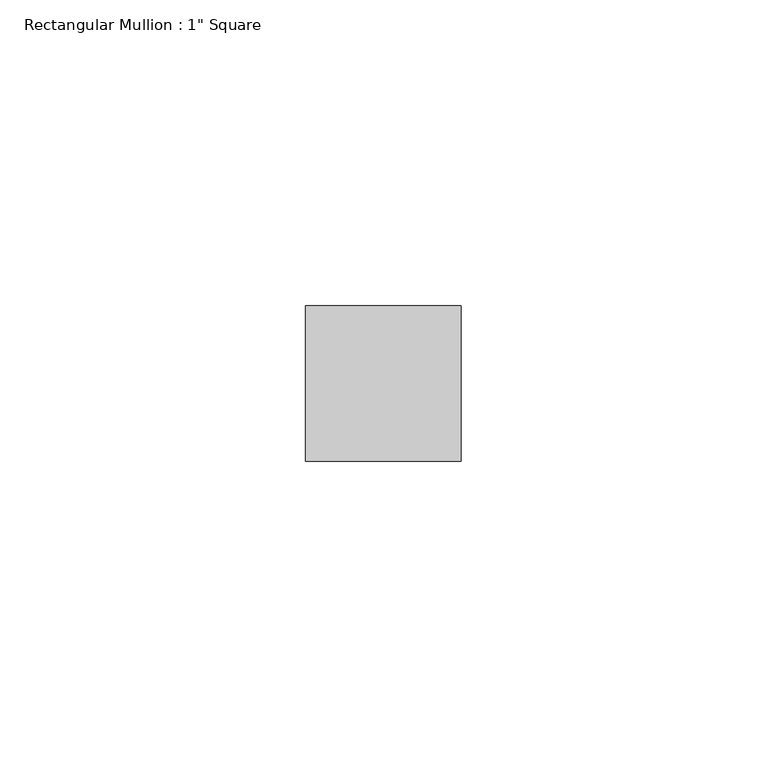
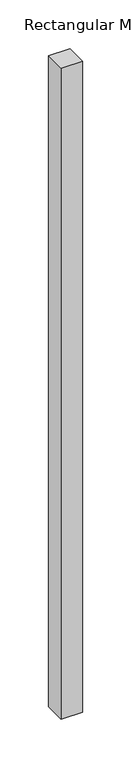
"""IFC4 building model written with IfcOpenShell, lengths in millimetres: member geometry."""

import ifcopenshell
import ifcopenshell.guid

model = None  # the IFC model being written
_history = None  # IfcOwnerHistory: only IFC2X3 demands one
_inside = {}  # id of a spatial element -> (the spatial element, [elements in it])
_under = {}  # id of a project, library or spatial element -> (it, [spatial elements below it])
_declared = {}  # id of a project -> (the project, [libraries it declares])
_typed = {}  # id of a type object -> (the type object, [elements of that type])
_made_of = {}  # id of a material, layer set ... -> (it, [elements and type objects made of it])


def new_model(schema):
    """Start an empty IFC model of exactly this schema.

    Asked for "IFC4X3", IfcOpenShell would pick the latest addendum, in which some entities
    have other attributes; the version numbers below select the first issue.
    IFC2X3 requires an IfcOwnerHistory on every rooted entity: one is made here for all.
    """
    global model, _history
    if schema == "IFC4X3":
        model = ifcopenshell.file(schema_version=(4, 3, 0, 0))
    else:
        model = ifcopenshell.file(schema=schema)
    _inside.clear()
    _under.clear()
    _declared.clear()
    _typed.clear()
    _made_of.clear()
    _history = None
    if model.schema == "IFC2X3":
        org = make("IfcOrganization", Name="unknown")
        user = make(
            "IfcPersonAndOrganization",
            ThePerson=make("IfcPerson", FamilyName="unknown"),
            TheOrganization=org,
        )
        app = make(
            "IfcApplication",
            ApplicationDeveloper=org,
            Version="unknown",
            ApplicationFullName="unknown",
            ApplicationIdentifier="unknown",
        )
        _history = make(
            "IfcOwnerHistory",
            OwningUser=user,
            OwningApplication=app,
            ChangeAction="ADDED",
            CreationDate=0,
        )
    return model


def make(cls, **values):
    """One entity of the class cls with the attributes given. An attribute that is None is left unset."""
    return model.create_entity(
        cls, **{name: value for name, value in values.items() if value is not None}
    )


def rooted(cls, **values):
    """An entity with a GlobalId (a new one), such as an element, a storey or a relation."""
    return make(cls, GlobalId=ifcopenshell.guid.new(), OwnerHistory=_history, **values)


def si_unit(unit_type, name, prefix=None):
    """IfcSIUnit, for example si_unit("LENGTHUNIT", "METRE", prefix="MILLI")."""
    return make("IfcSIUnit", UnitType=unit_type, Prefix=prefix, Name=name)


def assignment(units):
    """IfcUnitAssignment: the units of a project."""
    return None if units is None else make("IfcUnitAssignment", Units=units)


def point(xyz):
    """IfcCartesianPoint."""
    return None if xyz is None else make("IfcCartesianPoint", Coordinates=xyz)


def direction(xyz):
    """IfcDirection."""
    return None if xyz is None else make("IfcDirection", DirectionRatios=xyz)


def frame(location, z_axis=None, x_axis=None):
    """IfcAxis2Placement3D, a coordinate frame: its origin and axes. An axis left out is left unset."""
    return make(
        "IfcAxis2Placement3D",
        Location=point(location),
        Axis=direction(z_axis),
        RefDirection=direction(x_axis),
    )


def origin():
    """The frame at (0, 0, 0) with its axes left unset."""
    return frame((0.0, 0.0, 0.0))


def place(relative_to, where):
    """IfcLocalPlacement: puts the frame where relative to a parent placement (None: the world)."""
    return make(
        "IfcLocalPlacement", PlacementRelTo=relative_to, RelativePlacement=where
    )


def context(
    kind, dimensions, precision=None, world=None, true_north=None, identifier=None
):
    """IfcGeometricRepresentationContext, for example the 3D "Model" context."""
    return make(
        "IfcGeometricRepresentationContext",
        ContextIdentifier=identifier,
        ContextType=kind,
        CoordinateSpaceDimension=dimensions,
        Precision=precision,
        WorldCoordinateSystem=world,
        TrueNorth=true_north,
    )


def project(units=None, contexts=None):
    """IfcProject with its units and contexts."""
    return rooted(
        "IfcProject",
        Name="project",
        RepresentationContexts=contexts,
        UnitsInContext=assignment(units),
    )


def spatial(cls, under=None, at=None, **own):
    """A site, building, storey or space (cls), placed at a placement, below another one or the project."""
    s = rooted(cls, ObjectPlacement=at, **own)
    if under is not None:
        _under.setdefault(under.id(), (under, []))[1].append(s)
    return s


def polyline(points):
    """IfcPolyline through the points."""
    return make("IfcPolyline", Points=[point(p) for p in points])


def outline(outer, holes=None, kind="AREA"):
    """IfcArbitraryClosedProfileDef: a profile drawn as a closed curve; with holes, ...WithVoids."""
    if holes is None:
        return make("IfcArbitraryClosedProfileDef", ProfileType=kind, OuterCurve=outer)
    return make(
        "IfcArbitraryProfileDefWithVoids",
        ProfileType=kind,
        OuterCurve=outer,
        InnerCurves=holes,
    )


def extrude(swept, where, along, depth):
    """IfcExtrudedAreaSolid: the profile swept, set in the frame where, extruded along a direction by depth."""
    return make(
        "IfcExtrudedAreaSolid",
        SweptArea=swept,
        Position=where,
        ExtrudedDirection=direction(along),
        Depth=depth,
    )


def shape(context_of_items, identifier, shape_type, items):
    """IfcShapeRepresentation: the items that make up one representation, for example the "Body"."""
    return make(
        "IfcShapeRepresentation",
        ContextOfItems=context_of_items,
        RepresentationIdentifier=identifier,
        RepresentationType=shape_type,
        Items=items,
    )


def source(mapping_origin, context_of_items, identifier, shape_type, items):
    """IfcRepresentationMap: a shape defined once, which mapped items show again and again."""
    return make(
        "IfcRepresentationMap",
        MappingOrigin=mapping_origin,
        MappedRepresentation=shape(context_of_items, identifier, shape_type, items),
    )


def transform(
    local_origin,
    x_axis=None,
    y_axis=None,
    z_axis=None,
    scale=None,
    scale2=None,
    scale3=None,
    uniform=True,
):
    """IfcCartesianTransformationOperator3D, or its non-uniform kind. x_axis, y_axis, z_axis: its Axis1, 2, 3."""
    if uniform:
        return make(
            "IfcCartesianTransformationOperator3D",
            Axis1=direction(x_axis),
            Axis2=direction(y_axis),
            LocalOrigin=point(local_origin),
            Scale=scale,
            Axis3=direction(z_axis),
        )
    return make(
        "IfcCartesianTransformationOperator3DnonUniform",
        Axis1=direction(x_axis),
        Axis2=direction(y_axis),
        LocalOrigin=point(local_origin),
        Scale=scale,
        Axis3=direction(z_axis),
        Scale2=scale2,
        Scale3=scale3,
    )


def mapped(mapping_source, mapping_target):
    """IfcMappedItem: shows the shape of a source again, moved by a transform."""
    return make(
        "IfcMappedItem", MappingSource=mapping_source, MappingTarget=mapping_target
    )


def made_of(thing, what):
    """Note that an element or type object is made of a material, layer set ...; save() writes the relation."""
    if what is not None:
        _made_of.setdefault(what.id(), (what, []))[1].append(thing)
    return thing


def element(
    cls,
    number,
    at=None,
    inside=None,
    cuts=None,
    type_object=None,
    material=None,
    context=None,
    identifier="Body",
    shape_type=None,
    held_by="IfcProductDefinitionShape",
    body=None,
    shapes=None,
    **own,
):
    """One element of the class cls, such as IfcWall. Its Tag is "e" and its number.

    at: its placement. inside: the storey or other place that contains it. cuts: it is an
    opening in that element (IfcRelVoidsElement). A single representation is given by context,
    identifier, shape_type and body (its items); several are given by shapes. held_by: the class
    of the entity that holds the representations. save() writes the other relations.
    """
    e = rooted(cls, Tag="e%d" % number, ObjectPlacement=at, **own)
    if body is not None:
        shapes = [shape(context, identifier, shape_type, body)]
    if shapes is not None:
        e.Representation = make(held_by, Representations=shapes)
    if inside is not None:
        _inside.setdefault(inside.id(), (inside, []))[1].append(e)
    if cuts is not None:
        rooted(
            "IfcRelVoidsElement", RelatingBuildingElement=cuts, RelatedOpeningElement=e
        )
    if type_object is not None:
        _typed.setdefault(type_object.id(), (type_object, []))[1].append(e)
    return made_of(e, material)


def aggregate(whole, parts):
    """IfcRelAggregates: a whole, such as a stair, and the parts it consists of."""
    return rooted("IfcRelAggregates", RelatingObject=whole, RelatedObjects=parts)


def save(model, path):
    """Write the relations noted so far, then the file.

    IfcRelAggregates (storeys below a building ...), IfcRelContainedInSpatialStructure (elements
    in a storey), IfcRelDefinesByType, IfcRelAssociatesMaterial and IfcRelDeclares: one each for
    every whole, place, type object, material and project.
    """
    for whole, parts in _under.values():
        aggregate(whole, parts)
    for where, things in _inside.values():
        rooted(
            "IfcRelContainedInSpatialStructure",
            RelatedElements=things,
            RelatingStructure=where,
        )
    for kind, things in _typed.values():
        rooted("IfcRelDefinesByType", RelatedObjects=things, RelatingType=kind)
    for what, things in _made_of.values():
        rooted("IfcRelAssociatesMaterial", RelatedObjects=things, RelatingMaterial=what)
    for by, libraries in _declared.values():
        rooted("IfcRelDeclares", RelatingContext=by, RelatedDefinitions=libraries)
    model.write(path)


def member_ff149431(model_context):
    return source(origin(), model_context, "Body", "SweptSolid", [
        extrude(outline(polyline([(0.0, 12.7), (0.0, -12.7), (-25.4, -12.7), (-25.4, 12.7), (0.0, 12.7)])), frame((0.0, 0.0, -814.9439889), z_axis=(0.0, 0.0, 1.0), x_axis=(1.0, 0.0, 0.0)), (0.0, 0.0, 1.0), 814.9439889),
    ])


if __name__ == "__main__":
    model = new_model("IFC4")
    model_context = context("Model", 3, world=origin())
    ifc_project = project(units=[si_unit("LENGTHUNIT", "METRE", prefix="MILLI")], contexts=[model_context])
    site = spatial("IfcSite", under=ifc_project)
    building = spatial("IfcBuilding", under=site)
    placement = place(None, origin())
    member_shape = member_ff149431(model_context)
    element("IfcMember", 1, ObjectType="Rectangular Mullion : 1\" Square", at=placement, inside=building, context=model_context, shape_type="MappedRepresentation", body=[
        mapped(member_shape, transform((0.0, 0.0, 0.0), x_axis=(1.0, 0.0, 0.0), y_axis=(0.0, 1.0, 0.0), z_axis=(0.0, 0.0, 1.0))),
    ])
    save(model, "model.ifc")
